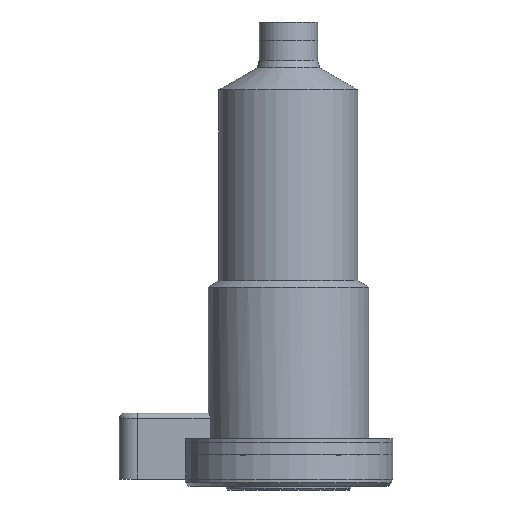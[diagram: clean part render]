
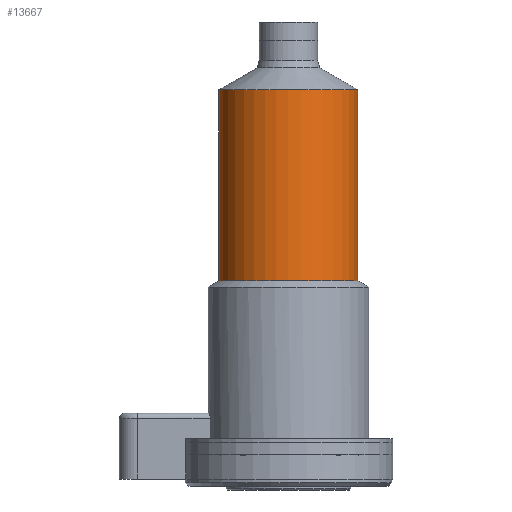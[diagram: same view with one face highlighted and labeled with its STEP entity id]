
A CAD part, front view. The second image highlights one B-rep face of the part: STEP entity #13667.
In plain terms, the highlighted cylindrical face has radius 38 mm (diameter 76 mm), a partial arc.
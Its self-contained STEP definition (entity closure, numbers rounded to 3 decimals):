
#57 = CIRCLE ( 'NONE', #9014, 38. ) ;
#147 = LINE ( 'NONE', #4530, #148 ) ;
#148 = VECTOR ( 'NONE', #4531, 1000. ) ;
#184 = CIRCLE ( 'NONE', #9183, 38. ) ;
#756 = CARTESIAN_POINT ( 'NONE',  ( 38., 0., 211.325 ) ) ;
#757 = DIRECTION ( 'NONE',  ( 0., 0., -1. ) ) ;
#1560 = AXIS2_PLACEMENT_3D ( 'NONE', #6437, #6438, #6439 ) ;
#4386 = ORIENTED_EDGE ( 'NONE', *, *, #9623, .T. ) ;
#4469 = ORIENTED_EDGE ( 'NONE', *, *, #9358, .F. ) ;
#4530 = CARTESIAN_POINT ( 'NONE',  ( -38., 0., 211.325 ) ) ;
#4531 = DIRECTION ( 'NONE',  ( 0., 0., -1. ) ) ;
#4812 = CARTESIAN_POINT ( 'NONE',  ( 0., 0., 218.917 ) ) ;
#4813 = DIRECTION ( 'NONE',  ( 0., 0., -1. ) ) ;
#4814 = DIRECTION ( 'NONE',  ( -1., 0., 0. ) ) ;
#5244 = CARTESIAN_POINT ( 'NONE',  ( 0., 0., 114.464 ) ) ;
#5245 = DIRECTION ( 'NONE',  ( 0., 0., -1. ) ) ;
#5246 = DIRECTION ( 'NONE',  ( -1., 0., 0. ) ) ;
#6437 = CARTESIAN_POINT ( 'NONE',  ( 0., 0., 211.325 ) ) ;
#6438 = DIRECTION ( 'NONE',  ( 0., 0., -1. ) ) ;
#6439 = DIRECTION ( 'NONE',  ( -1., 0., 0. ) ) ;
#7763 = FACE_OUTER_BOUND ( 'NONE', #14354, .T. ) ;
#7769 = CYLINDRICAL_SURFACE ( 'NONE', #1560, 38. ) ;
#8874 = ORIENTED_EDGE ( 'NONE', *, *, #9718, .T. ) ;
#8875 = ORIENTED_EDGE ( 'NONE', *, *, #9077, .F. ) ;
#9014 = AXIS2_PLACEMENT_3D ( 'NONE', #5244, #5245, #5246 ) ;
#9077 = EDGE_CURVE ( 'NONE', #19635, #19437, #14209, .T. ) ;
#9183 = AXIS2_PLACEMENT_3D ( 'NONE', #4812, #4813, #4814 ) ;
#9358 = EDGE_CURVE ( 'NONE', #19437, #19604, #57, .T. ) ;
#9623 = EDGE_CURVE ( 'NONE', #19411, #19604, #147, .T. ) ;
#9718 = EDGE_CURVE ( 'NONE', #19635, #19411, #184, .T. ) ;
#11225 = CARTESIAN_POINT ( 'NONE',  ( -38., 0., 218.917 ) ) ;
#11251 = CARTESIAN_POINT ( 'NONE',  ( 38., 0., 114.464 ) ) ;
#11418 = CARTESIAN_POINT ( 'NONE',  ( -38., 0., 114.464 ) ) ;
#11449 = CARTESIAN_POINT ( 'NONE',  ( 38., 0., 218.917 ) ) ;
#13667 = ADVANCED_FACE ( 'NONE', ( #7763 ), #7769, .T. ) ;
#14209 = LINE ( 'NONE', #756, #14210 ) ;
#14210 = VECTOR ( 'NONE', #757, 1000. ) ;
#14354 = EDGE_LOOP ( 'NONE', ( #8875, #8874, #4386, #4469 ) ) ;
#19411 = VERTEX_POINT ( 'NONE', #11225 ) ;
#19437 = VERTEX_POINT ( 'NONE', #11251 ) ;
#19604 = VERTEX_POINT ( 'NONE', #11418 ) ;
#19635 = VERTEX_POINT ( 'NONE', #11449 ) ;
